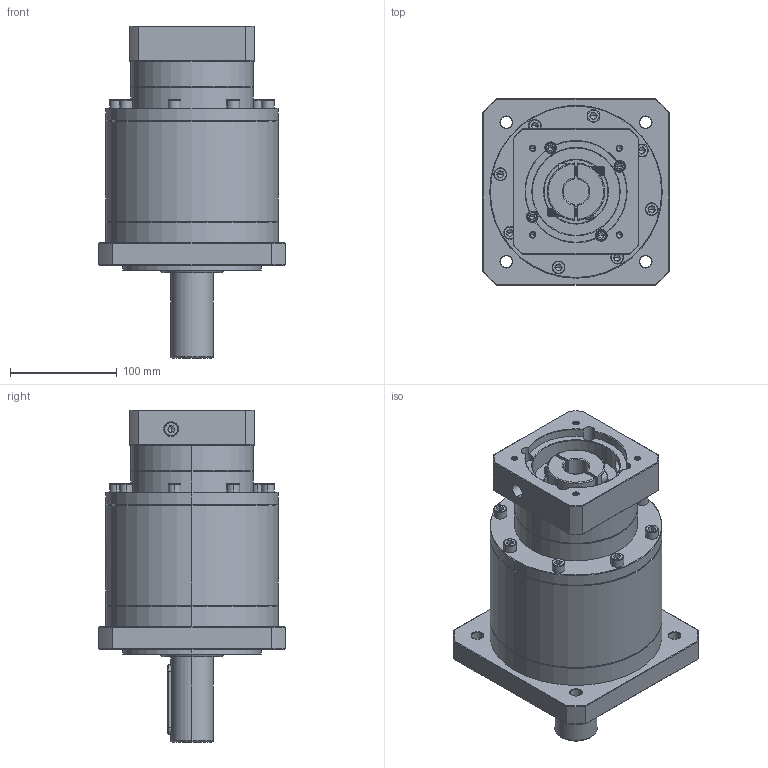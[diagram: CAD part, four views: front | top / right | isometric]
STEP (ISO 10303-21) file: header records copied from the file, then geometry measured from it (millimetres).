
FILE_DESCRIPTION (( 'STEP AP214' ), '1' );
FILE_NAME ('ZF160A-D40-L3-P2-24-95-115-M6.step', '2023-09-03T07:56:35', ( '' ), ( '' ), 'SwSTEP 2.0', 'SolidWorks 2016', '' );
FILE_SCHEMA (( 'AUTOMOTIVE_DESIGN' ));
Length unit declared in the file: millimetre
Products named in the file (1): ZF160A-D40-L3-P2-24-95-115-M6
Bounding box: 175 x 175 x 311.7 mm (x, y, z)
Volume: 4110422 mm3; surface area: 273025.6 mm2
Topology: 6 solids, 6 shells, 2444 faces, 6454 edges, 4133 vertices
Faces by surface type: plane 1119, cylinder 486, bspline 425, cone 376, torus 38
Entity records: 131794 total; most frequent: CARTESIAN_POINT 49667, ORIENTED_EDGE 12800, DIRECTION 9754, EDGE_CURVE 6400, VERTEX_POINT 4133, LINE 3386, VECTOR 3386, AXIS2_PLACEMENT_3D 3184
